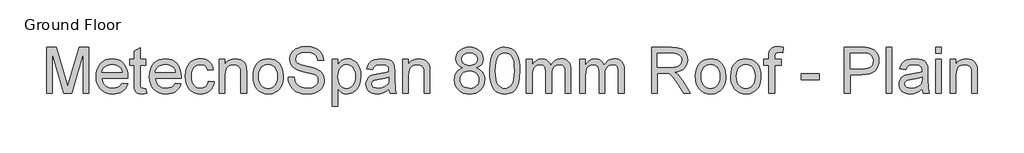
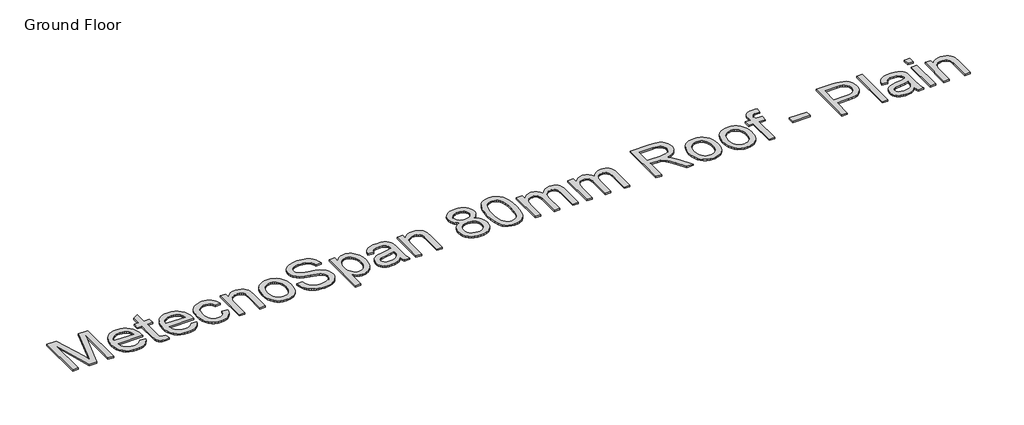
# One storey, part 6 of 14: 1 proxy.
"""IFC4 building model written with IfcOpenShell, lengths in millimetres."""

from ifc_helpers import new_model, si_unit, origin, origin_with_axes, place, context, project, spatial, polyline, outline, extrude, element, save

model = new_model("IFC4")

# Units and contexts
model_context = context("Model", 3, world=origin())
ifc_project = project(units=[si_unit("LENGTHUNIT", "METRE", prefix="MILLI")], contexts=[model_context])

# Site, building, storey
site = spatial("IfcSite", under=ifc_project)
building = spatial("IfcBuilding", under=site)
storey = spatial("IfcBuildingStorey", under=building, Name="Ground Floor", Elevation=0.0)

# Proxy
placement = place(None, origin())
element("IfcBuildingElementProxy", 1, Name="600mm Arial", ObjectType="600mm Arial", at=placement, inside=storey, context=model_context, shape_type="SweptSolid", body=[
    extrude(outline(polyline([(42888.0190952, -15382.5513721), (42888.0190952, -14779.8135112), (43017.6607103, -14779.8135112), (43140.9747551, -15204.6436392), (43165.843578, -15293.3767765), (43192.77254, -15197.2859993), (43314.0264456, -14779.8135112), (43443.6680607, -14779.8135112), (43443.6680607, -15382.5513721), (43368.3258281, -15382.5513721), (43368.3258281, -14855.1557438), (43216.9055989, -15382.5513721), (43114.7815571, -15382.5513721), (42963.3613278, -14855.1557438), (42963.3613278, -15382.5513721), (42888.0190952, -15382.5513721)])), origin_with_axes(), (0.0, 0.0, 1.0), 20.0),
    extrude(outline(polyline([(43876.0029815, -15250.702465), (43949.8736861, -15260.1202441), (43938.5475192, -15289.7071536), (43923.2574238, -15315.78079), (43904.0033998, -15338.3411533), (43880.7854474, -15357.3882436), (43853.8426898, -15372.5173907), (43823.4142503, -15383.3239243), (43789.5001288, -15389.8078444), (43752.1003255, -15391.9691512), (43705.351721, -15388.2397474), (43663.6982821, -15377.0515363), (43627.1400088, -15358.4045176), (43595.6769012, -15332.2986916), (43570.3758169, -15299.460625), (43552.3036139, -15260.6168848), (43541.4602921, -15215.7674711), (43537.8458515, -15164.9123837), (43541.4970803, -15112.3328496), (43552.4507667, -15065.9889152), (43570.7069107, -15025.8805807), (43596.2655123, -14992.007846), (43627.6458465, -14965.0972781), (43663.3671883, -14945.8754438), (43703.4295375, -14934.3423433), (43747.8328944, -14930.4979764), (43790.8061099, -14934.3331462), (43829.6682442, -14945.8386556), (43864.4192972, -14965.0145046), (43895.0592688, -14991.8606932), (43920.070646, -15025.6598515), (43937.9359154, -15065.6946096), (43948.655077, -15111.9649676), (43952.2281309, -15164.4709254), (43951.7866725, -15184.7780115), (43613.1880841, -15184.7780115), (43617.5520843, -15214.8431675), (43626.2295009, -15241.1743213), (43639.2203338, -15263.7714729), (43656.5245832, -15282.6346222), (43677.1857557, -15297.5062519), (43700.2473583, -15308.1288445), (43725.7093909, -15314.5024), (43753.5718535, -15316.6269186), (43793.670991, -15312.6905812), (43827.4425581, -15300.8815692), (43854.886555, -15280.4641184), (43876.0029815, -15250.702465)]), holes=[polyline([(43613.1880841, -15109.4357789), (43876.8858983, -15109.4357789), (43866.695567, -15069.630947), (43857.9307785, -15053.9775681), (43846.7195747, -15041.1568806), (43826.1733652, -15025.7058368), (43802.7944644, -15014.6693769), (43776.5828723, -15008.047501), (43747.5385888, -15005.840209), (43721.0464866, -15007.6014441), (43696.7524793, -15012.8851492), (43674.656567, -15021.6913245), (43654.7587496, -15034.0199699), (43638.0615055, -15049.3008682), (43625.5673133, -15066.9638025), (43617.2761728, -15087.0087727), (43613.1880841, -15109.4357789)])]), origin_with_axes(), (0.0, 0.0, 1.0), 20.0),
    extrude(outline(polyline([(44187.6726078, -15319.7171273), (44197.0903869, -15384.7586641), (44140.7308652, -15391.9691512), (44104.5680651, -15388.8421542), (44077.6023148, -15379.4611633), (44058.5460275, -15365.0034009), (44046.111616, -15346.6460894), (44039.2690109, -15315.1186024), (44036.9881426, -15261.1503137), (44036.9881426, -15015.2579881), (43980.4814681, -15015.2579881), (43980.4814681, -14939.9157555), (44036.9881426, -14939.9157555), (44036.9881426, -14832.3470601), (44112.3303752, -14788.0540679), (44112.3303752, -14939.9157555), (44187.6726078, -14939.9157555), (44187.6726078, -15015.2579881), (44112.3303752, -15015.2579881), (44112.3303752, -15258.9430217), (44116.3035007, -15297.7913604), (44129.1793706, -15311.550147), (44140.0502835, -15315.3577257), (44154.8575338, -15316.6269186), (44187.6726078, -15319.7171273)])), origin_with_axes(), (0.0, 0.0, 1.0), 20.0),
    extrude(outline(polyline([(44572.9186331, -15250.702465), (44646.7893378, -15260.1202441), (44635.4631708, -15289.7071536), (44620.1730754, -15315.78079), (44600.9190515, -15338.3411533), (44577.7010991, -15357.3882436), (44550.7583415, -15372.5173907), (44520.3299019, -15383.3239243), (44486.4157805, -15389.8078444), (44449.0159772, -15391.9691512), (44402.2673726, -15388.2397474), (44360.6139337, -15377.0515363), (44324.0556605, -15358.4045176), (44292.5925528, -15332.2986916), (44267.2914686, -15299.460625), (44249.2192656, -15260.6168848), (44238.3759438, -15215.7674711), (44234.7615032, -15164.9123837), (44238.412732, -15112.3328496), (44249.3664184, -15065.9889152), (44267.6225624, -15025.8805807), (44293.181164, -14992.007846), (44324.5614982, -14965.0972781), (44360.2828399, -14945.8754438), (44400.3451892, -14934.3423433), (44444.748546, -14930.4979764), (44487.7217616, -14934.3331462), (44526.5838958, -14945.8386556), (44561.3349488, -14965.0145046), (44591.9749205, -14991.8606932), (44616.9862976, -15025.6598515), (44634.851567, -15065.6946096), (44645.5707287, -15111.9649676), (44649.1437825, -15164.4709254), (44648.7023241, -15184.7780115), (44310.1037358, -15184.7780115), (44314.467736, -15214.8431675), (44323.1451525, -15241.1743213), (44336.1359855, -15263.7714729), (44353.4402348, -15282.6346222), (44374.1014074, -15297.5062519), (44397.1630099, -15308.1288445), (44422.6250425, -15314.5024), (44450.4875051, -15316.6269186), (44490.5866426, -15312.6905812), (44524.3582098, -15300.8815692), (44551.8022066, -15280.4641184), (44572.9186331, -15250.702465)]), holes=[polyline([(44310.1037358, -15109.4357789), (44573.8015499, -15109.4357789), (44563.6112187, -15069.630947), (44554.8464301, -15053.9775681), (44543.6352263, -15041.1568806), (44523.0890169, -15025.7058368), (44499.7101161, -15014.6693769), (44473.4985239, -15008.047501), (44444.4542404, -15005.840209), (44417.9621382, -15007.6014441), (44393.668131, -15012.8851492), (44371.5722187, -15021.6913245), (44351.6744012, -15034.0199699), (44334.9771572, -15049.3008682), (44322.4829649, -15066.9638025), (44314.1918245, -15087.0087727), (44310.1037358, -15109.4357789)])]), origin_with_axes(), (0.0, 0.0, 1.0), 20.0),
    extrude(outline(polyline([(45007.0193875, -15222.4491278), (45082.3616201, -15231.8669069), (45074.1670486, -15267.4181032), (45061.3555581, -15298.8766123), (45043.9271486, -15326.2424342), (45021.8818201, -15349.5155689), (44996.1484745, -15368.0890112), (44967.656014, -15381.3557556), (44936.4044385, -15389.3158023), (44902.393748, -15391.9691512), (44860.1379024, -15388.2673386), (44822.2506554, -15377.1619009), (44788.7320071, -15358.652838), (44759.5819575, -15332.7401499), (44735.986926, -15299.9112804), (44719.1333321, -15260.653673), (44709.0211758, -15214.9673277), (44705.650457, -15162.8522446), (44711.4078102, -15095.805751), (44718.6045018, -15065.6348288), (44728.6798699, -15037.6987898), (44741.7028925, -15012.558654), (44757.7425475, -14990.7754413), (44776.7988349, -14972.3491519), (44798.8717546, -14957.2797857), (44822.9634267, -14945.5627441), (44848.0759714, -14937.1934287), (44874.2093887, -14932.1718395), (44901.3636784, -14930.4979764), (44934.7903562, -14932.7972389), (44965.0256577, -14939.6950263), (44992.0695829, -14951.1913387), (45015.9221317, -14967.2861759), (45036.1786341, -14987.6116562), (45052.4344198, -15011.7998974), (45064.6894887, -15039.8508995), (45072.943841, -15071.7646626), (44997.6016084, -15081.1824416), (44983.9347923, -15048.3121854), (44962.6528188, -15024.7493436), (44934.9329105, -15010.5674927), (44901.9522896, -15005.840209), (44876.3523013, -15008.1670627), (44853.2631076, -15015.1476235), (44832.6847085, -15026.7818916), (44814.617104, -15043.0698669), (44799.9064227, -15064.3886286), (44789.3987932, -15091.1152555), (44783.0942155, -15123.2497478), (44780.9926896, -15160.7921054), (44783.0482303, -15198.9000816), (44789.2148522, -15231.4070544), (44799.4925554, -15258.3130238), (44813.88134, -15279.6179898), (44831.5902595, -15295.8093962), (44851.8283678, -15307.3746864), (44874.5956648, -15314.3138605), (44899.8921505, -15316.6269186), (44938.906036, -15310.8511712), (44955.778024, -15303.6314871), (44970.8933755, -15293.5239293), (44983.8290262, -15280.4181332), (44994.1619117, -15264.2037342), (45001.8920321, -15244.8807324), (45007.0193875, -15222.4491278)])), origin_with_axes(), (0.0, 0.0, 1.0), 20.0),
    extrude(outline(polyline([(45148.2860736, -15382.5513721), (45148.2860736, -14939.9157555), (45223.6283062, -14939.9157555), (45223.6283062, -15001.7199307), (45249.8031102, -14970.5603257), (45281.2386267, -14948.303465), (45317.9348557, -14934.9493486), (45359.8917972, -14930.4979764), (45397.0294846, -14934.0848259), (45431.0401751, -14944.8453742), (45459.4038769, -14961.4368522), (45479.6005985, -14982.5164905), (45493.3042028, -15008.0291069), (45502.188553, -15037.919519), (45506.1616785, -15110.7601541), (45506.1616785, -15382.5513721), (45430.8194459, -15382.5513721), (45430.8194459, -15120.9136971), (45428.6489421, -15081.9549938), (45422.1374308, -15054.2534796), (45410.1260837, -15034.406246), (45391.4560724, -15019.0103845), (45367.5253486, -15009.1327529), (45339.7318639, -15005.840209), (45316.8542023, -15007.6888161), (45295.6044186, -15013.2346371), (45275.9825126, -15022.4776723), (45257.9884846, -15035.4179214), (45242.9559065, -15053.5269127), (45232.2183508, -15078.2761739), (45225.7758174, -15109.6657051), (45223.6283062, -15147.6955064), (45223.6283062, -15382.5513721), (45148.2860736, -15382.5513721)])), origin_with_axes(), (0.0, 0.0, 1.0), 20.0),
    extrude(outline(polyline([(45590.9216902, -15161.2335638), (45594.9959833, -15103.9083519), (45607.2188626, -15054.510997), (45627.5903281, -15013.0414991), (45656.1103797, -14979.4998582), (45684.8235695, -14958.0615349), (45716.5166033, -14942.7484469), (45751.1894814, -14933.560594), (45788.8422036, -14930.4979764), (45830.4082705, -14934.2273801), (45867.9920149, -14945.4155913), (45901.5934366, -14964.06261), (45931.2125357, -14990.168436), (45955.3869813, -15022.8501528), (45972.6544425, -15061.2248434), (45983.0149192, -15105.2925079), (45986.4684114, -15155.0531463), (45984.9417011, -15195.38221), (45980.3615703, -15231.1679311), (45972.7280189, -15262.4103095), (45962.0410469, -15289.1093453), (45948.4340116, -15312.1709479), (45932.0402702, -15332.5010267), (45912.8598227, -15350.0995816), (45890.8926691, -15364.9666127), (45866.994135, -15376.7802233), (45842.019546, -15385.2185166), (45815.9689022, -15390.2814925), (45788.8422036, -15391.9691512), (45746.6691314, -15388.253543), (45708.7358992, -15377.1067186), (45675.0425069, -15358.5286778), (45645.5889547, -15332.5194208), (45621.6720265, -15299.5204058), (45604.5885063, -15259.9730913), (45594.3383942, -15213.8774773), (45590.9216902, -15161.2335638)]), holes=[polyline([(45666.2639228, -15161.086411), (45668.4436236, -15197.6308887), (45674.9827261, -15229.2733388), (45685.8812302, -15256.0137613), (45701.139136, -15277.8521563), (45719.6987826, -15294.8161148), (45740.5025094, -15306.933228), (45763.5503164, -15314.2034959), (45788.8422036, -15316.6269186), (45814.0053321, -15314.1897003), (45836.9611686, -15306.8780457), (45857.7097131, -15294.6919546), (45876.2509657, -15277.6314271), (45891.5088714, -15255.5769015), (45902.4073755, -15228.4088161), (45908.946478, -15196.127171), (45911.1261788, -15158.7319662), (45908.9326824, -15123.3463168), (45902.3521932, -15092.5316012), (45891.3847112, -15066.2878194), (45876.0302365, -15044.6149713), (45857.420006, -15027.6510128), (45836.6852571, -15015.5338996), (45813.8259896, -15008.2636317), (45788.8422036, -15005.840209), (45763.5503164, -15008.2544346), (45740.5025094, -15015.4971114), (45719.6987826, -15027.5682394), (45701.139136, -15044.4678185), (45685.8812302, -15066.2418341), (45674.9827261, -15092.9362714), (45668.4436236, -15124.5511304), (45666.2639228, -15161.086411)])]), origin_with_axes(), (0.0, 0.0, 1.0), 20.0),
    extrude(outline(polyline([(46052.3928649, -15175.3602324), (46127.7350976, -15175.3602324), (46136.3803244, -15217.1700212), (46152.0153092, -15250.7760414), (46176.4058855, -15277.4474861), (46211.3178869, -15298.453548), (46253.9921983, -15312.0835759), (46301.6697049, -15316.6269186), (46343.6450405, -15313.1872219), (46380.3964518, -15302.8681319), (46410.1764994, -15286.5341714), (46431.2377436, -15265.0498628), (46443.7641255, -15240.3833751), (46447.9395862, -15214.5028767), (46444.8125892, -15189.2845659), (46435.4315983, -15167.4875577), (46416.375311, -15148.8911229), (46384.2224246, -15133.2745322), (46274.5200136, -15104.5061601), (46202.5071131, -15085.4682669), (46156.4298932, -15067.3500786), (46118.9243238, -15042.0030092), (46092.3448496, -15011.2848626), (46076.5075297, -14975.8578264), (46071.2284231, -14936.3840883), (46072.8608995, -14913.9478852), (46077.7583285, -14892.256643), (46085.9207103, -14871.3103619), (46097.3480448, -14851.1090419), (46111.9115732, -14832.4758188), (46129.482537, -14816.2338287), (46150.0609361, -14802.3830716), (46173.6467706, -14790.9235475), (46226.6585661, -14775.527686), (46285.3357443, -14770.3957321), (46348.9057531, -14775.7668093), (46404.5295107, -14791.8800406), (46428.8649047, -14803.8821907), (46450.2204545, -14818.4043325), (46468.5961602, -14835.4464659), (46483.9920217, -14855.008591), (46496.2884774, -14876.5204907), (46505.3659656, -14899.4119478), (46511.2244864, -14923.6829625), (46513.8640397, -14949.3335346), (46438.5218071, -14949.3335346), (46433.4818237, -14925.2924462), (46424.6894441, -14904.3783548), (46412.144668, -14886.5912603), (46395.8474956, -14871.9311628), (46375.4944243, -14860.4716386), (46350.7819512, -14852.2862642), (46321.7100766, -14847.3750396), (46288.2788003, -14845.7379647), (46253.7806662, -14847.3566455), (46224.3041213, -14852.2126878), (46199.8491657, -14860.3060917), (46180.4157993, -14871.6368572), (46165.608549, -14885.2576881), (46155.0319416, -14900.2212882), (46148.6859772, -14916.5276577), (46146.5706557, -14934.1767964), (46148.0697748, -14949.3611257), (46152.5671322, -14963.1291094), (46160.0627279, -14975.4807474), (46170.5565618, -14986.4160397), (46187.0744634, -14996.7719179), (46213.0837204, -15007.2381606), (46293.576301, -15028.5017399), (46376.6440555, -15048.6984615), (46426.896736, -15066.320009), (46469.846959, -15093.6536413), (46486.4522325, -15109.7208874), (46499.8109475, -15127.3884202), (46510.0794537, -15146.5642692), (46517.4141009, -15167.1564639), (46523.2818188, -15212.5898903), (46521.5941601, -15236.1573306), (46516.5311842, -15259.0349922), (46508.0928909, -15281.222875), (46496.2792803, -15302.7209791), (46481.2972861, -15322.6969715), (46463.3538418, -15340.318519), (46442.4489474, -15355.5856218), (46418.5826029, -15368.4982799), (46392.4491857, -15378.7667861), (46364.743073, -15386.1014333), (46304.6127608, -15391.9691512), (46266.0725233, -15390.3872586), (46230.7972385, -15385.6415809), (46198.7869064, -15377.732118), (46170.041527, -15366.6588699), (46144.3863564, -15352.4034426), (46121.6466505, -15334.9474419), (46101.8224095, -15314.2908679), (46084.9136333, -15290.4337205), (46071.2928024, -15264.1485519), (46061.3323974, -15236.2079144), (46055.0324183, -15206.6118079), (46052.3928649, -15175.3602324)])), origin_with_axes(), (0.0, 0.0, 1.0), 20.0),
    extrude(outline(polyline([(46626.8773886, -15552.0713955), (46626.8773886, -14939.9157555), (46702.2196212, -14939.9157555), (46702.2196212, -15013.7864601), (46726.7941385, -14977.3477485), (46754.3117117, -14951.3200973), (46786.3910217, -14935.7035067), (46824.6507492, -14930.4979764), (46850.9267207, -14932.3189923), (46875.6024056, -14937.7820399), (46898.6778037, -14946.8871193), (46920.1529152, -14959.6342304), (46939.5586904, -14975.6922795), (46956.4260799, -14994.7301728), (46970.7550836, -15016.7479102), (46982.5457016, -15041.7454918), (46998.3278391, -15097.2588848), (47003.5885517, -15157.8490494), (46997.6472575, -15222.2835809), (46990.2206397, -15251.9486653), (46979.8233748, -15279.9122954), (46966.5980171, -15305.4433059), (46950.6871208, -15327.8105312), (46932.0906859, -15347.0139714), (46910.8087125, -15363.0536264), (46887.8850657, -15375.7041685), (46864.3636106, -15384.74027), (46840.2443473, -15390.1619309), (46815.5272757, -15391.9691512), (46780.8911859, -15387.1315029), (46749.9707042, -15372.6185582), (46723.5015946, -15350.7111854), (46702.2196212, -15323.6902529), (46702.2196212, -15552.0713955), (46626.8773886, -15552.0713955)]), holes=[polyline([(46702.2196212, -15164.765231), (46704.2567678, -15201.0751839), (46710.3682074, -15232.3083653), (46720.5539402, -15258.4647751), (46734.813966, -15279.5444134), (46751.9802596, -15295.7680094), (46770.8847956, -15307.3562923), (46791.5275741, -15314.309262), (46813.908595, -15316.6269186), (46836.6115126, -15314.2264885), (46857.6313701, -15307.0251985), (46876.9681675, -15295.0230484), (46894.6219047, -15278.2200383), (46909.332586, -15256.3770448), (46919.8402155, -15229.2549447), (46926.1447932, -15196.853738), (46928.2463191, -15159.1734246), (46926.1953769, -15123.1761714), (46920.0425506, -15091.9981723), (46909.78784, -15065.6394273), (46895.4312451, -15044.0999365), (46878.2235648, -15027.3613058), (46859.4155978, -15015.4051409), (46839.0073441, -15008.231442), (46816.9988037, -15005.840209), (46795.0592412, -15008.3831933), (46774.4164628, -15016.0121462), (46755.0704684, -15028.7270677), (46737.021258, -15046.5279577), (46721.7955419, -15069.175693), (46710.9200304, -15096.4311503), (46704.3947235, -15128.2943297), (46702.2196212, -15164.765231)])]), origin_with_axes(), (0.0, 0.0, 1.0), 20.0),
    extrude(outline(polyline([(47370.8819357, -15326.0446976), (47334.8846824, -15356.909997), (47297.8205714, -15377.1067186), (47258.843474, -15388.253543), (47217.1072617, -15391.9691512), (47183.5610222, -15389.7342681), (47154.1442582, -15383.0296187), (47128.8569696, -15371.8552031), (47107.6991563, -15356.2110212), (47090.9927152, -15337.0903545), (47079.059543, -15315.4864844), (47071.8996397, -15291.3994107), (47069.5130052, -15264.8291336), (47073.1182488, -15233.5959522), (47083.9339794, -15205.2322504), (47100.6174279, -15180.9520387), (47121.8258249, -15161.9693278), (47146.7498301, -15147.62193), (47174.580103, -15137.2476577), (47239.7687926, -15125.9168923), (47316.8032824, -15113.9975156), (47370.4404773, -15100.0179998), (47370.8819357, -15083.2425808), (47365.6947995, -15049.6181665), (47359.2108794, -15037.1653609), (47350.1333911, -15027.6188231), (47334.443224, -15018.0906795), (47315.3317544, -15011.2848626), (47266.8449074, -15005.840209), (47221.963304, -15009.4638467), (47190.619758, -15020.3347596), (47169.2458141, -15040.4395107), (47154.2730169, -15071.7646626), (47078.9307843, -15062.3468835), (47092.0089892, -15021.1441), (47111.5251291, -14988.7704845), (47139.3002197, -14964.0120262), (47177.155277, -14945.6547146), (47223.4532261, -14934.287161), (47276.5569921, -14930.4979764), (47327.4902543, -14933.8457026), (47367.8653033, -14943.888881), (47398.3075384, -14958.9904369), (47419.442359, -14977.5132954), (47433.458663, -15000.4139496), (47442.5453483, -15028.6488927), (47446.2241683, -15094.5733463), (47446.2241683, -15188.3096786), (47450.050141, -15319.2020925), (47455.7155237, -15351.557314), (47465.0597264, -15382.5513721), (47389.7174938, -15382.5513721), (47377.6509644, -15356.358174), (47370.8819357, -15326.0446976)]), holes=[polyline([(47370.8819357, -15175.3602324), (47320.2613731, -15187.9050084), (47249.3337245, -15198.4632217), (47184.5129169, -15210.6769039), (47167.6455274, -15219.0278252), (47155.1559337, -15230.5425317), (47147.4304118, -15244.3381065), (47144.8552378, -15259.5316329), (47150.4654382, -15281.9356464), (47167.2960395, -15300.292958), (47194.9791597, -15312.5434284), (47233.1469167, -15316.6269186), (47273.6139361, -15312.1203641), (47309.3720661, -15298.6007008), (47338.3611673, -15278.6798908), (47358.5211006, -15254.9698962), (47367.4606331, -15230.5425317), (47370.4404773, -15196.6973881), (47370.8819357, -15175.3602324)])]), origin_with_axes(), (0.0, 0.0, 1.0), 20.0),
    extrude(outline(polyline([(47549.8197381, -15382.5513721), (47549.8197381, -14939.9157555), (47625.1619707, -14939.9157555), (47625.1619707, -15001.7199307), (47651.3367747, -14970.5603257), (47682.7722912, -14948.303465), (47719.4685202, -14934.9493486), (47761.4254617, -14930.4979764), (47798.5631492, -14934.0848259), (47832.5738396, -14944.8453742), (47860.9375414, -14961.4368522), (47881.134263, -14982.5164905), (47894.8378673, -15008.0291069), (47903.7222175, -15037.919519), (47907.695343, -15110.7601541), (47907.695343, -15382.5513721), (47832.3531104, -15382.5513721), (47832.3531104, -15120.9136971), (47830.1826066, -15081.9549938), (47823.6710953, -15054.2534796), (47811.6597482, -15034.406246), (47792.9897369, -15019.0103845), (47769.0590131, -15009.1327529), (47741.2655284, -15005.840209), (47718.3878668, -15007.6888161), (47697.1380831, -15013.2346371), (47677.5161772, -15022.4776723), (47659.5221491, -15035.4179214), (47644.489571, -15053.5269127), (47633.7520153, -15078.2761739), (47627.3094819, -15109.6657051), (47625.1619707, -15147.6955064), (47625.1619707, -15382.5513721), (47549.8197381, -15382.5513721)])), origin_with_axes(), (0.0, 0.0, 1.0), 20.0),
    extrude(outline(polyline([(48337.675819, -15050.5746596), (48297.3375582, -15030.7090319), (48281.6795808, -15018.1274677), (48269.0290387, -15003.7800699), (48252.308802, -14970.3395965), (48246.7353898, -14930.9394348), (48249.7704162, -14900.2120912), (48258.8754956, -14872.0415274), (48274.0506279, -14846.4277435), (48295.2958131, -14823.3707394), (48321.5901787, -14804.3144521), (48351.9128522, -14790.7028183), (48386.2638335, -14782.535838), (48424.6431226, -14779.8135112), (48463.2063528, -14782.6002173), (48497.8148515, -14790.9603357), (48528.4686187, -14804.8938662), (48555.1676545, -14824.400809), (48576.7991158, -14847.9084685), (48592.2501596, -14873.8441492), (48601.5207859, -14902.207851), (48604.6109947, -14932.999574), (48599.1111589, -14971.1305428), (48582.6116514, -15004.0007991), (48570.1910355, -15018.2516278), (48554.9285312, -15030.7642142), (48515.8778574, -15050.5746596), (48540.6409142, -15061.1098803), (48562.2493829, -15074.4685952), (48580.7032635, -15090.6508045), (48596.002556, -15109.6565081), (48608.0093046, -15131.0626417), (48616.5855536, -15154.446141), (48621.731303, -15179.807006), (48623.4465528, -15207.1452368), (48620.0436444, -15244.7243826), (48609.834919, -15279.1765315), (48592.8203767, -15310.5016833), (48569.0000176, -15338.6998383), (48539.6246402, -15362.0051627), (48505.9450436, -15378.6518229), (48467.9612276, -15388.6398191), (48425.6731922, -15391.9691512), (48383.3851569, -15388.6260235), (48345.4013409, -15378.5966406), (48311.7217442, -15361.8810025), (48282.3463669, -15338.4791091), (48258.5260077, -15310.0832176), (48241.5114654, -15278.3855852), (48231.3027401, -15243.3862118), (48227.8998316, -15205.0850976), (48229.6840593, -15176.5006666), (48235.0367423, -15150.3442567), (48243.9578807, -15126.6158681), (48256.4474744, -15105.3155005), (48272.229612, -15086.8294303), (48291.028382, -15071.5439334), (48312.8437843, -15059.4590098), (48337.675819, -15050.5746596)]), holes=[polyline([(48322.0776224, -14933.1467268), (48323.7468869, -14950.4187865), (48328.7546806, -14966.0353772), (48337.1010034, -14979.9964989), (48348.7858552, -14992.3021516), (48363.6620834, -15002.3453301), (48381.5825351, -15009.519029), (48402.5472103, -15013.8232483), (48426.556109, -15015.2579881), (48449.971798, -15013.8324454), (48470.4812192, -15009.5558172), (48488.0843727, -15002.4281035), (48502.7812584, -14992.4493044), (48514.3695413, -14980.4011691), (48522.6468862, -14967.0654467), (48527.6132931, -14952.4421374), (48529.2687621, -14936.5312411), (48527.5581108, -14919.999544), (48522.426157, -14904.8382073), (48513.8729006, -14891.047231), (48501.8983416, -14878.6266151), (48486.8703621, -14868.3581089), (48469.1568441, -14861.0234616), (48448.7577874, -14856.6226733), (48425.6731922, -14855.1557438), (48402.4092546, -14856.5904836), (48381.9136289, -14860.8947029), (48364.1863153, -14868.0684018), (48349.2273136, -14878.1115803), (48337.3493237, -14890.1597157), (48328.8650452, -14903.3482852), (48323.7744781, -14917.6772889), (48322.0776224, -14933.1467268)]), polyline([(48303.2420642, -15202.4363473), (48306.3874553, -15231.2599016), (48315.8236285, -15259.1637509), (48333.2428409, -15283.4991449), (48360.3373499, -15301.6173332), (48392.7845419, -15312.8745222), (48426.2618034, -15316.6269186), (48453.5034652, -15314.6541514), (48477.5445535, -15308.7358498), (48498.3850686, -15298.8720138), (48516.0250102, -15285.0626434), (48530.0597084, -15268.2090495), (48540.0844927, -15249.2125429), (48546.0993634, -15228.0731238), (48548.1043202, -15204.790792), (48546.034984, -15181.1359797), (48539.8269753, -15159.614883), (48529.4802942, -15140.2275019), (48514.9949407, -15122.9738363), (48496.8767524, -15108.8103795), (48475.6315672, -15098.6936246), (48451.259385, -15092.6235717), (48423.7602059, -15090.6002207), (48396.9186158, -15092.5959805), (48373.1948256, -15098.58326), (48352.5888354, -15108.5620591), (48335.100645, -15122.5323779), (48321.1625159, -15139.5009349), (48311.2067094, -15158.4744488), (48305.2332255, -15179.4529196), (48303.2420642, -15202.4363473)])]), origin_with_axes(), (0.0, 0.0, 1.0), 20.0),
    extrude(outline(polyline([(48689.3710064, -15086.038484), (48694.9076304, -14989.5614307), (48701.8284104, -14948.6483544), (48711.5175025, -14912.6189115), (48723.9335198, -14881.1787964), (48739.0350757, -14854.0337037), (48756.8221702, -14831.1836333), (48777.2948032, -14812.6285852), (48800.5219527, -14798.2719903), (48826.5725965, -14788.0172797), (48855.4467346, -14781.8644533), (48887.144367, -14779.8135112), (48933.5710748, -14784.6695535), (48975.1417402, -14799.2376805), (49009.9065888, -14822.9476751), (49035.9158458, -14855.2293202), (49055.5607444, -14895.8067043), (49071.2325174, -14944.4039158), (49081.496425, -15006.1161205), (49084.9177276, -15086.038484), (49079.4362859, -15181.9637142), (49072.5844837, -15222.7388349), (49062.9919607, -15258.7222925), (49050.6725124, -15290.1762031), (49035.6399343, -15317.3626825), (49017.8942266, -15340.2817308), (48997.4353891, -15358.933348), (48974.1806485, -15373.3865119), (48948.0472313, -15383.7102004), (48919.0351374, -15389.9044135), (48887.144367, -15391.9691512), (48845.6472779, -15388.3823017), (48808.8590784, -15377.6217534), (48776.7797684, -15359.6875061), (48749.409348, -15334.5795599), (48723.1425735, -15289.1921188), (48704.3805918, -15232.6394591), (48693.1234027, -15164.9215808), (48689.3710064, -15086.038484)]), holes=[polyline([(48764.713239, -15085.8913312), (48766.920531, -15151.3881219), (48773.5424069, -15204.4045159), (48784.5788667, -15244.9405133), (48800.0299105, -15272.9961139), (48818.7183159, -15292.084591), (48839.4668604, -15305.7192174), (48862.2755441, -15313.8999933), (48887.144367, -15316.6269186), (48912.0131899, -15313.8907962), (48934.8218736, -15305.6824292), (48955.5704181, -15292.0018175), (48974.2588234, -15272.8489611), (48989.7098672, -15244.7473752), (49000.7463271, -15204.2205749), (49007.368203, -15151.2685603), (49009.575495, -15085.8913312), (49007.4417794, -15022.1281844), (49001.0406327, -14970.0452909), (48990.3720548, -14929.6426508), (48975.4360458, -14900.920264), (48957.0603402, -14880.8982864), (48936.0726723, -14866.5968739), (48912.4730423, -14858.0160263), (48886.2614502, -14855.1557438), (48861.521386, -14857.6757355), (48839.0989784, -14865.2357105), (48818.9942274, -14877.8356688), (48801.2071329, -14895.4756105), (48785.2410543, -14926.7455801), (48773.8367125, -14968.9048567), (48766.9941074, -15021.9534404), (48764.713239, -15085.8913312)])]), origin_with_axes(), (0.0, 0.0, 1.0), 20.0),
    extrude(outline(polyline([(49169.6777393, -15382.5513721), (49169.6777393, -14939.9157555), (49245.0199719, -14939.9157555), (49245.0199719, -15012.7563905), (49267.6815028, -14979.2975231), (49296.8177568, -14953.0859309), (49331.4354526, -14936.144965), (49370.5413086, -14930.4979764), (49412.4430679, -14936.2553296), (49430.2761476, -14943.4520212), (49446.0306941, -14953.5273893), (49471.1202461, -14981.1737213), (49487.5277831, -15018.0538913), (49514.990174, -14979.7481785), (49546.3153259, -14952.3869551), (49581.5032388, -14935.9702211), (49620.5539126, -14930.4979764), (49650.7156376, -14932.7742463), (49677.1893457, -14939.6030558), (49699.9750368, -14950.984405), (49719.0727109, -14966.9182939), (49734.1696682, -14987.5886635), (49744.9532092, -15013.1794548), (49751.4233338, -15043.6906678), (49753.580042, -15079.1223025), (49753.580042, -15382.5513721), (49678.2378094, -15382.5513721), (49678.2378094, -15111.495918), (49676.4903699, -15073.9167722), (49671.2480515, -15048.5880969), (49661.4256022, -15031.2424608), (49645.9377702, -15017.6124329), (49626.0169602, -15008.783265), (49602.8955768, -15005.840209), (49581.5446255, -15007.7256043), (49562.0790694, -15013.3817899), (49544.4989086, -15022.8087661), (49528.804143, -15036.0065326), (49515.8960835, -15053.3613658), (49506.676041, -15075.2595415), (49501.1440155, -15101.7010599), (49499.300007, -15132.685921), (49499.300007, -15382.5513721), (49423.9577743, -15382.5513721), (49423.9577743, -15103.1082086), (49419.5983727, -15060.5074735), (49414.1491206, -15043.7872368), (49406.5201678, -15030.1204207), (49396.4080114, -15019.4978281), (49383.509149, -15011.910262), (49367.8235804, -15007.3577223), (49349.3513057, -15005.840209), (49320.3254163, -15009.886911), (49293.5803953, -15022.0270168), (49271.5074755, -15041.966221), (49256.4978901, -15069.4102178), (49247.8894514, -15107.4860043), (49245.0199719, -15159.3205774), (49245.0199719, -15382.5513721), (49169.6777393, -15382.5513721)])), origin_with_axes(), (0.0, 0.0, 1.0), 20.0),
    extrude(outline(polyline([(49866.5933909, -15382.5513721), (49866.5933909, -14939.9157555), (49941.9356236, -14939.9157555), (49941.9356236, -15012.7563905), (49964.5971545, -14979.2975231), (49993.7334085, -14953.0859309), (50028.3511042, -14936.144965), (50067.4569603, -14930.4979764), (50109.3587196, -14936.2553296), (50127.1917993, -14943.4520212), (50142.9463457, -14953.5273893), (50168.0358978, -14981.1737213), (50184.4434348, -15018.0538913), (50211.9058257, -14979.7481785), (50243.2309776, -14952.3869551), (50278.4188904, -14935.9702211), (50317.4695642, -14930.4979764), (50347.6312893, -14932.7742463), (50374.1049974, -14939.6030558), (50396.8906885, -14950.984405), (50415.9883625, -14966.9182939), (50431.0853199, -14987.5886635), (50441.8688609, -15013.1794548), (50448.3389855, -15043.6906678), (50450.4956937, -15079.1223025), (50450.4956937, -15382.5513721), (50375.1534611, -15382.5513721), (50375.1534611, -15111.495918), (50373.4060216, -15073.9167722), (50368.1637032, -15048.5880969), (50358.3412539, -15031.2424608), (50342.8534219, -15017.6124329), (50322.9326119, -15008.783265), (50299.8112285, -15005.840209), (50278.4602772, -15007.7256043), (50258.9947211, -15013.3817899), (50241.4145602, -15022.8087661), (50225.7197946, -15036.0065326), (50212.8117351, -15053.3613658), (50203.5916926, -15075.2595415), (50198.0596671, -15101.7010599), (50196.2156586, -15132.685921), (50196.2156586, -15382.5513721), (50120.873426, -15382.5513721), (50120.873426, -15103.1082086), (50116.5140244, -15060.5074735), (50111.0647723, -15043.7872368), (50103.4358194, -15030.1204207), (50093.3236631, -15019.4978281), (50080.4248006, -15011.910262), (50064.7392321, -15007.3577223), (50046.2669574, -15005.840209), (50017.241068, -15009.886911), (49990.4960469, -15022.0270168), (49968.4231272, -15041.966221), (49953.4135418, -15069.4102178), (49944.8051031, -15107.4860043), (49941.9356236, -15159.3205774), (49941.9356236, -15382.5513721), (49866.5933909, -15382.5513721)])), origin_with_axes(), (0.0, 0.0, 1.0), 20.0),
    extrude(outline(polyline([(50808.3712986, -15382.5513721), (50808.3712986, -14779.8135112), (51068.0959872, -14779.8135112), (51137.9015958, -14783.8786072), (51188.6877052, -14796.0738954), (51208.2866185, -14805.767586), (51225.8069985, -14818.5882735), (51241.2488453, -14834.535958), (51254.6121587, -14853.6106394), (51265.3956997, -14874.7868468), (51273.098229, -14897.039109), (51277.7197466, -14920.367426), (51279.2602524, -14944.7717978), (51276.7080711, -14975.7290677), (51269.0515271, -15004.1479519), (51256.2906203, -15030.0284502), (51238.425351, -15053.3705628), (51215.2257926, -15073.4293286), (51186.4620191, -15089.4597865), (51152.1340305, -15101.4619366), (51112.2418266, -15109.4357789), (51137.0738613, -15125.6593749), (51155.0632908, -15141.6622417), (51185.9285902, -15178.2665002), (51216.131702, -15219.2117662), (51316.6370631, -15382.5513721), (51229.0811483, -15382.5513721), (51150.6487069, -15257.6186465), (51093.9948796, -15174.918774), (51072.9336354, -15150.8041092), (51054.1900478, -15135.8497061), (51018.3583414, -15121.5023083), (50974.6539604, -15118.853558), (50883.7135312, -15118.853558), (50883.7135312, -15382.5513721), (50808.3712986, -15382.5513721)]), holes=[polyline([(50883.7135312, -15043.5113253), (51052.3506378, -15043.5113253), (51100.7823025, -15040.8441809), (51138.3614483, -15032.8427475), (51166.6515737, -15018.9735963), (51187.2161772, -14998.7032983), (51199.7425592, -14974.1839633), (51203.9180198, -14947.567701), (51201.9268585, -14928.2998815), (51195.9533746, -14910.8162897), (51185.9975681, -14895.1169255), (51172.059439, -14881.2017891), (51153.8170906, -14869.8066443), (51130.9486261, -14861.6672551), (51103.4540454, -14856.7836216), (51071.3333487, -14855.1557438), (50883.7135312, -14855.1557438), (50883.7135312, -15043.5113253)])]), origin_with_axes(), (0.0, 0.0, 1.0), 20.0),
    extrude(outline(polyline([(51382.8558223, -15161.2335638), (51386.9301154, -15103.9083519), (51399.1529946, -15054.510997), (51419.5244601, -15013.0414991), (51448.0445118, -14979.4998582), (51476.7577015, -14958.0615349), (51508.4507354, -14942.7484469), (51543.1236135, -14933.560594), (51580.7763357, -14930.4979764), (51622.3424026, -14934.2273801), (51659.9261469, -14945.4155913), (51693.5275687, -14964.06261), (51723.1466678, -14990.168436), (51747.3211134, -15022.8501528), (51764.5885746, -15061.2248434), (51774.9490512, -15105.2925079), (51778.4025435, -15155.0531463), (51776.8758332, -15195.38221), (51772.2957024, -15231.1679311), (51764.662151, -15262.4103095), (51753.975179, -15289.1093453), (51740.3681437, -15312.1709479), (51723.9744023, -15332.5010267), (51704.7939548, -15350.0995816), (51682.8268011, -15364.9666127), (51658.928267, -15376.7802233), (51633.9536781, -15385.2185166), (51607.9030343, -15390.2814925), (51580.7763357, -15391.9691512), (51538.6032634, -15388.253543), (51500.6700312, -15377.1067186), (51466.976639, -15358.5286778), (51437.5230867, -15332.5194208), (51413.6061585, -15299.5204058), (51396.5226384, -15259.9730913), (51386.2725263, -15213.8774773), (51382.8558223, -15161.2335638)]), holes=[polyline([(51458.1980549, -15161.086411), (51460.3777557, -15197.6308887), (51466.9168582, -15229.2733388), (51477.8153623, -15256.0137613), (51493.073268, -15277.8521563), (51511.6329147, -15294.8161148), (51532.4366415, -15306.933228), (51555.4844485, -15314.2034959), (51580.7763357, -15316.6269186), (51605.9394641, -15314.1897003), (51628.8953006, -15306.8780457), (51649.6438452, -15294.6919546), (51668.1850977, -15277.6314271), (51683.4430035, -15255.5769015), (51694.3415076, -15228.4088161), (51700.88061, -15196.127171), (51703.0603109, -15158.7319662), (51700.8668145, -15123.3463168), (51694.2863253, -15092.5316012), (51683.3188433, -15066.2878194), (51667.9643685, -15044.6149713), (51649.3541381, -15027.6510128), (51628.6193891, -15015.5338996), (51605.7601217, -15008.2636317), (51580.7763357, -15005.840209), (51555.4844485, -15008.2544346), (51532.4366415, -15015.4971114), (51511.6329147, -15027.5682394), (51493.073268, -15044.4678185), (51477.8153623, -15066.2418341), (51466.9168582, -15092.9362714), (51460.3777557, -15124.5511304), (51458.1980549, -15161.086411)])]), origin_with_axes(), (0.0, 0.0, 1.0), 20.0),
    extrude(outline(polyline([(51844.326997, -15161.2335638), (51848.4012901, -15103.9083519), (51860.6241694, -15054.510997), (51880.9956349, -15013.0414991), (51909.5156866, -14979.4998582), (51938.2288763, -14958.0615349), (51969.9219102, -14942.7484469), (52004.5947882, -14933.560594), (52042.2475104, -14930.4979764), (52083.8135773, -14934.2273801), (52121.3973217, -14945.4155913), (52154.9987434, -14964.06261), (52184.6178425, -14990.168436), (52208.7922882, -15022.8501528), (52226.0597493, -15061.2248434), (52236.420226, -15105.2925079), (52239.8737182, -15155.0531463), (52238.3470079, -15195.38221), (52233.7668771, -15231.1679311), (52226.1333257, -15262.4103095), (52215.4463537, -15289.1093453), (52201.8393184, -15312.1709479), (52185.445577, -15332.5010267), (52166.2651295, -15350.0995816), (52144.2979759, -15364.9666127), (52120.3994418, -15376.7802233), (52095.4248528, -15385.2185166), (52069.374209, -15390.2814925), (52042.2475104, -15391.9691512), (52000.0744382, -15388.253543), (51962.141206, -15377.1067186), (51928.4478137, -15358.5286778), (51898.9942615, -15332.5194208), (51875.0773333, -15299.5204058), (51857.9938131, -15259.9730913), (51847.743701, -15213.8774773), (51844.326997, -15161.2335638)]), holes=[polyline([(51919.6692296, -15161.086411), (51921.8489304, -15197.6308887), (51928.3880329, -15229.2733388), (51939.286537, -15256.0137613), (51954.5444428, -15277.8521563), (51973.1040894, -15294.8161148), (51993.9078162, -15306.933228), (52016.9556232, -15314.2034959), (52042.2475104, -15316.6269186), (52067.4106389, -15314.1897003), (52090.3664754, -15306.8780457), (52111.1150199, -15294.6919546), (52129.6562725, -15277.6314271), (52144.9141782, -15255.5769015), (52155.8126823, -15228.4088161), (52162.3517848, -15196.127171), (52164.5314856, -15158.7319662), (52162.3379892, -15123.3463168), (52155.7575, -15092.5316012), (52144.790018, -15066.2878194), (52129.4355433, -15044.6149713), (52110.8253128, -15027.6510128), (52090.0905639, -15015.5338996), (52067.2312964, -15008.2636317), (52042.2475104, -15005.840209), (52016.9556232, -15008.2544346), (51993.9078162, -15015.4971114), (51973.1040894, -15027.5682394), (51954.5444428, -15044.4678185), (51939.286537, -15066.2418341), (51928.3880329, -15092.9362714), (51921.8489304, -15124.5511304), (51919.6692296, -15161.086411)])]), origin_with_axes(), (0.0, 0.0, 1.0), 20.0),
    extrude(outline(polyline([(52343.4692881, -15382.5513721), (52343.4692881, -15015.2579881), (52277.5448345, -15015.2579881), (52277.5448345, -14939.9157555), (52343.4692881, -14939.9157555), (52343.4692881, -14895.3284577), (52345.4558508, -14858.4298936), (52351.4155392, -14832.4942129), (52366.5722774, -14807.441449), (52389.9695723, -14787.6126095), (52422.7110698, -14774.6999515), (52465.9004161, -14770.3957321), (52498.6051254, -14772.4558713), (52534.6207728, -14778.6362888), (52523.5843129, -14849.2696319), (52480.1742375, -14845.7379647), (52451.5346241, -14848.8649617), (52432.7174601, -14858.2459526), (52422.2880055, -14876.1618057), (52418.8115207, -14904.8933896), (52418.8115207, -14939.9157555), (52503.5715324, -14939.9157555), (52503.5715324, -15015.2579881), (52418.8115207, -15015.2579881), (52418.8115207, -15382.5513721), (52343.4692881, -15382.5513721)])), origin_with_axes(), (0.0, 0.0, 1.0), 20.0),
    extrude(outline(polyline([(52767.2693465, -15203.6135696), (52767.2693465, -15128.271337), (53002.7138234, -15128.271337), (53002.7138234, -15203.6135696), (52767.2693465, -15203.6135696)])), origin_with_axes(), (0.0, 0.0, 1.0), 20.0),
    extrude(outline(polyline([(53332.3360911, -15382.5513721), (53332.3360911, -14779.8135112), (53555.7140386, -14779.8135112), (53607.7325527, -14781.248251), (53645.771551, -14785.5524703), (53685.9258708, -14796.2762305), (53718.980068, -14813.7322312), (53745.5963304, -14838.7114186), (53766.4368454, -14872.0047392), (53779.9013264, -14911.2761422), (53784.3894868, -14954.1895769), (53781.3590588, -14991.1893086), (53772.267775, -15025.2275902), (53757.1156354, -15056.3044217), (53735.9026398, -15084.4198032), (53706.7801814, -15107.7251276), (53667.899653, -15124.3717879), (53619.2610547, -15134.359784), (53560.8643865, -15137.6891161), (53407.6783237, -15137.6891161), (53407.6783237, -15382.5513721), (53332.3360911, -15382.5513721)]), holes=[polyline([(53407.6783237, -15062.3468835), (53565.2789704, -15062.3468835), (53601.515347, -15060.6178381), (53632.0863408, -15055.430702), (53656.9919518, -15046.7854751), (53676.2321802, -15034.6821575), (53690.5887751, -15019.4426458), (53700.8434857, -15001.3888369), (53706.996312, -14980.5207307), (53709.0472542, -14956.8383273), (53704.2096059, -14922.9931837), (53689.6966612, -14894.4455409), (53667.3110418, -14872.9612324), (53638.8553695, -14860.3060917), (53609.7926919, -14856.4433308), (53563.5131369, -14855.1557438), (53407.6783237, -14855.1557438), (53407.6783237, -15062.3468835)])]), origin_with_axes(), (0.0, 0.0, 1.0), 20.0),
    extrude(outline(polyline([(53878.5672775, -15382.5513721), (53878.5672775, -14779.8135112), (53953.9095102, -14779.8135112), (53953.9095102, -15382.5513721), (53878.5672775, -15382.5513721)])), origin_with_axes(), (0.0, 0.0, 1.0), 20.0),
    extrude(outline(polyline([(54349.4562314, -15326.0446976), (54313.4589781, -15356.909997), (54276.3948671, -15377.1067186), (54237.4177697, -15388.253543), (54195.6815574, -15391.9691512), (54162.1353179, -15389.7342681), (54132.7185539, -15383.0296187), (54107.4312653, -15371.8552031), (54086.273452, -15356.2110212), (54069.5670109, -15337.0903545), (54057.6338387, -15315.4864844), (54050.4739354, -15291.3994107), (54048.0873009, -15264.8291336), (54051.6925445, -15233.5959522), (54062.5082751, -15205.2322504), (54079.1917236, -15180.9520387), (54100.4001206, -15161.9693278), (54125.3241258, -15147.62193), (54153.1543987, -15137.2476577), (54218.3430883, -15125.9168923), (54295.3775781, -15113.9975156), (54349.014773, -15100.0179998), (54349.4562314, -15083.2425808), (54344.2690952, -15049.6181665), (54337.7851751, -15037.1653609), (54328.7076868, -15027.6188231), (54313.0175197, -15018.0906795), (54293.9060501, -15011.2848626), (54245.4192031, -15005.840209), (54200.5375997, -15009.4638467), (54169.1940537, -15020.3347596), (54147.8201098, -15040.4395107), (54132.8473126, -15071.7646626), (54057.50508, -15062.3468835), (54070.5832849, -15021.1441), (54090.0994248, -14988.7704845), (54117.8745154, -14964.0120262), (54155.7295727, -14945.6547146), (54202.0275218, -14934.287161), (54255.1312878, -14930.4979764), (54306.06455, -14933.8457026), (54346.439599, -14943.888881), (54376.8818341, -14958.9904369), (54398.0166547, -14977.5132954), (54412.0329587, -15000.4139496), (54421.119644, -15028.6488927), (54424.798464, -15094.5733463), (54424.798464, -15188.3096786), (54428.6244367, -15319.2020925), (54434.2898195, -15351.557314), (54443.6340221, -15382.5513721), (54368.2917895, -15382.5513721), (54356.2252601, -15356.358174), (54349.4562314, -15326.0446976)]), holes=[polyline([(54349.4562314, -15175.3602324), (54298.8356688, -15187.9050084), (54227.9080202, -15198.4632217), (54163.0872126, -15210.6769039), (54146.2198231, -15219.0278252), (54133.7302294, -15230.5425317), (54126.0047075, -15244.3381065), (54123.4295335, -15259.5316329), (54129.039734, -15281.9356464), (54145.8703352, -15300.292958), (54173.5534554, -15312.5434284), (54211.7212124, -15316.6269186), (54252.1882318, -15312.1203641), (54287.9463618, -15298.6007008), (54316.935463, -15278.6798908), (54337.0953963, -15254.9698962), (54346.0349288, -15230.5425317), (54349.014773, -15196.6973881), (54349.4562314, -15175.3602324)])]), origin_with_axes(), (0.0, 0.0, 1.0), 20.0),
    extrude(outline(polyline([(54528.3940338, -14855.1557438), (54528.3940338, -14779.8135112), (54603.7362664, -14779.8135112), (54603.7362664, -14855.1557438), (54528.3940338, -14855.1557438)])), origin_with_axes(), (0.0, 0.0, 1.0), 20.0),
    extrude(outline(polyline([(54528.3940338, -15382.5513721), (54528.3940338, -14939.9157555), (54603.7362664, -14939.9157555), (54603.7362664, -15382.5513721), (54528.3940338, -15382.5513721)])), origin_with_axes(), (0.0, 0.0, 1.0), 20.0),
    extrude(outline(polyline([(54716.7496153, -15382.5513721), (54716.7496153, -14939.9157555), (54792.091848, -14939.9157555), (54792.091848, -15001.7199307), (54818.2666519, -14970.5603257), (54849.7021684, -14948.303465), (54886.3983974, -14934.9493486), (54928.355339, -14930.4979764), (54965.4930264, -14934.0848259), (54999.5037168, -14944.8453742), (55027.8674187, -14961.4368522), (55048.0641402, -14982.5164905), (55061.7677445, -15008.0291069), (55070.6520947, -15037.919519), (55074.6252203, -15110.7601541), (55074.6252203, -15382.5513721), (54999.2829876, -15382.5513721), (54999.2829876, -15120.9136971), (54997.1124839, -15081.9549938), (54990.6009726, -15054.2534796), (54978.5896254, -15034.406246), (54959.9196142, -15019.0103845), (54935.9888904, -15009.1327529), (54908.1954056, -15005.840209), (54885.3177441, -15007.6888161), (54864.0679603, -15013.2346371), (54844.4460544, -15022.4776723), (54826.4520263, -15035.4179214), (54811.4194483, -15053.5269127), (54800.6818925, -15078.2761739), (54794.2393591, -15109.6657051), (54792.091848, -15147.6955064), (54792.091848, -15382.5513721), (54716.7496153, -15382.5513721)])), origin_with_axes(), (0.0, 0.0, 1.0), 20.0),
])

save(model, "model.ifc")
